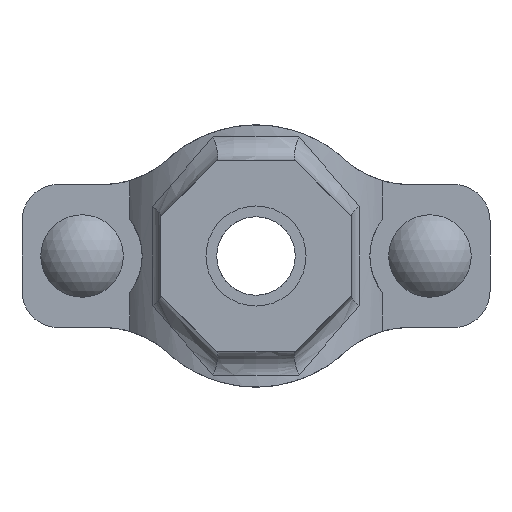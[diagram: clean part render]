
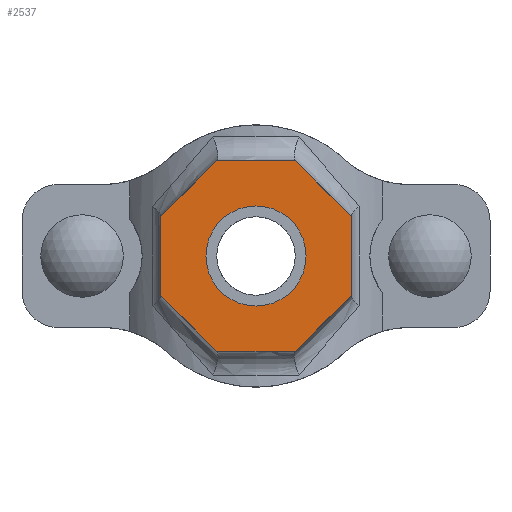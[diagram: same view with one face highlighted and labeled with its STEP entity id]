
A CAD part, front view. The second image highlights one B-rep face of the part: STEP entity #2537.
In plain terms, the highlighted planar face has unit normal (0, -1, 0) as drawn and (0, 1, 0) by its records, which use the part's own axes.
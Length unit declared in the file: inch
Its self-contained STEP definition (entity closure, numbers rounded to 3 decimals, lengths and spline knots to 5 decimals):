
#186=FACE_BOUND('',#457,.T.);
#305=FACE_OUTER_BOUND('',#456,.T.);
#456=EDGE_LOOP('',(#2126,#2127,#2128,#2129,#2130,#2131,#2132,#2133));
#457=EDGE_LOOP('',(#2134));
#594=LINE('',#4577,#780);
#597=LINE('',#4582,#783);
#599=LINE('',#4586,#785);
#601=LINE('',#4590,#787);
#637=LINE('',#4947,#823);
#639=LINE('',#4951,#825);
#641=LINE('',#4955,#827);
#643=LINE('',#4958,#829);
#780=VECTOR('',#3278,0.3937);
#783=VECTOR('',#3283,0.3937);
#785=VECTOR('',#3287,0.3937);
#787=VECTOR('',#3291,0.3937);
#823=VECTOR('',#3415,0.3937);
#825=VECTOR('',#3419,0.3937);
#827=VECTOR('',#3423,0.3937);
#829=VECTOR('',#3427,0.3937);
#915=CIRCLE('',#2798,0.525);
#1097=VERTEX_POINT('',#4574);
#1098=VERTEX_POINT('',#4576);
#1099=VERTEX_POINT('',#4580);
#1100=VERTEX_POINT('',#4584);
#1101=VERTEX_POINT('',#4588);
#1132=VERTEX_POINT('',#4796);
#1156=VERTEX_POINT('',#4946);
#1157=VERTEX_POINT('',#4950);
#1158=VERTEX_POINT('',#4954);
#1408=EDGE_CURVE('',#1098,#1097,#594,.T.);
#1411=EDGE_CURVE('',#1097,#1099,#597,.T.);
#1413=EDGE_CURVE('',#1099,#1100,#599,.T.);
#1415=EDGE_CURVE('',#1100,#1101,#601,.T.);
#1457=EDGE_CURVE('',#1132,#1132,#915,.T.);
#1489=EDGE_CURVE('',#1156,#1098,#637,.T.);
#1491=EDGE_CURVE('',#1157,#1156,#639,.T.);
#1493=EDGE_CURVE('',#1158,#1157,#641,.T.);
#1495=EDGE_CURVE('',#1101,#1158,#643,.T.);
#2126=ORIENTED_EDGE('',*,*,#1495,.T.);
#2127=ORIENTED_EDGE('',*,*,#1493,.T.);
#2128=ORIENTED_EDGE('',*,*,#1491,.T.);
#2129=ORIENTED_EDGE('',*,*,#1489,.T.);
#2130=ORIENTED_EDGE('',*,*,#1408,.T.);
#2131=ORIENTED_EDGE('',*,*,#1411,.T.);
#2132=ORIENTED_EDGE('',*,*,#1413,.T.);
#2133=ORIENTED_EDGE('',*,*,#1415,.T.);
#2134=ORIENTED_EDGE('',*,*,#1457,.T.);
#2278=PLANE('',#2821);
#2537=ADVANCED_FACE('',(#305,#186),#2278,.T.);
#2798=AXIS2_PLACEMENT_3D('',#4797,#3361,#3362);
#2821=AXIS2_PLACEMENT_3D('',#4959,#3428,#3429);
#3278=DIRECTION('',(0.,0.,1.));
#3283=DIRECTION('',(0.707,0.,0.707));
#3287=DIRECTION('',(1.,0.,0.));
#3291=DIRECTION('',(0.707,0.,-0.707));
#3361=DIRECTION('center_axis',(0.,-1.,0.));
#3362=DIRECTION('ref_axis',(-1.,0.,0.));
#3415=DIRECTION('',(-0.707,0.,0.707));
#3419=DIRECTION('',(-1.,0.,0.));
#3423=DIRECTION('',(-0.707,0.,-0.707));
#3427=DIRECTION('',(0.,0.,-1.));
#3428=DIRECTION('center_axis',(0.,1.,0.));
#3429=DIRECTION('ref_axis',(0.,0.,1.));
#4574=CARTESIAN_POINT('',(-1.,2.53,0.41421));
#4576=CARTESIAN_POINT('',(-1.,2.53,-0.41421));
#4577=CARTESIAN_POINT('',(-1.,2.53,0.41421));
#4580=CARTESIAN_POINT('',(-0.41421,2.53,1.));
#4582=CARTESIAN_POINT('',(-0.41421,2.53,1.));
#4584=CARTESIAN_POINT('',(0.41421,2.53,1.));
#4586=CARTESIAN_POINT('',(0.41421,2.53,1.));
#4588=CARTESIAN_POINT('',(1.,2.53,0.41421));
#4590=CARTESIAN_POINT('',(1.,2.53,0.41421));
#4796=CARTESIAN_POINT('',(0.525,2.53,0.));
#4797=CARTESIAN_POINT('Origin',(0.,2.53,0.));
#4946=CARTESIAN_POINT('',(-0.41421,2.53,-1.));
#4947=CARTESIAN_POINT('',(-1.,2.53,-0.41421));
#4950=CARTESIAN_POINT('',(0.41421,2.53,-1.));
#4951=CARTESIAN_POINT('',(-0.41421,2.53,-1.));
#4954=CARTESIAN_POINT('',(1.,2.53,-0.41421));
#4955=CARTESIAN_POINT('',(0.41421,2.53,-1.));
#4958=CARTESIAN_POINT('',(1.,2.53,-0.41421));
#4959=CARTESIAN_POINT('Origin',(0.,2.53,0.));
